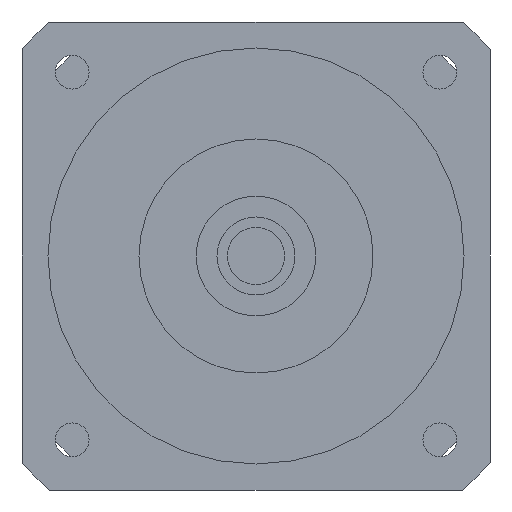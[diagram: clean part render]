
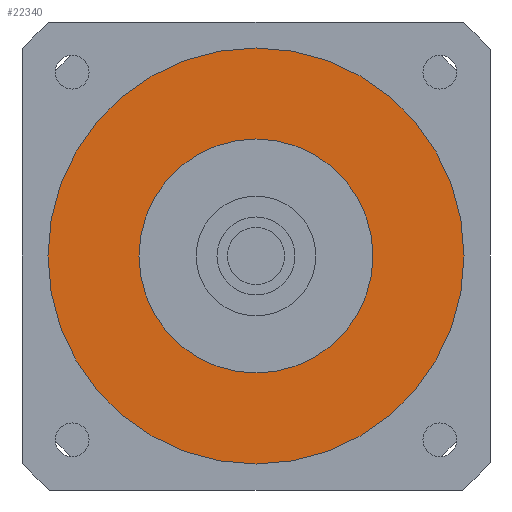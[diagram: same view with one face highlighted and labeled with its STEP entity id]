
A CAD part, left-side view. The second image highlights one B-rep face of the part: STEP entity #22340.
In plain terms, the highlighted planar face has unit normal (-1, 0, 0) as drawn and (0, 0, -1) by its records, which use the part's own axes.
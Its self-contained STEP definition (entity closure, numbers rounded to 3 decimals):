
#13830=CARTESIAN_POINT('',(0.,22.5,-54.));
#13840=VERTEX_POINT('',#13830);
#13890=CARTESIAN_POINT('',(0.,0.,-54.));
#13900=DIRECTION('',(0.,0.,1.));
#13910=DIRECTION('',(0.,1.,0.));
#13920=AXIS2_PLACEMENT_3D('',#13890,#13900,#13910);
#13930=CIRCLE('',#13920,22.5);
#13940=CARTESIAN_POINT('',(0.,-22.5,-54.));
#13950=VERTEX_POINT('',#13940);
#13960=EDGE_CURVE('',#13840,#13950,#13930,.T.);
#21900=CARTESIAN_POINT('',(0.,-40.,-54.));
#21910=VERTEX_POINT('',#21900);
#22000=CARTESIAN_POINT('',(0.,40.,-54.));
#22010=VERTEX_POINT('',#22000);
#22040=CARTESIAN_POINT('',(0.,0.,
-54.));
#22050=DIRECTION('',(0.,0.,1.));
#22060=DIRECTION('',(1.,0.,0.));
#22070=AXIS2_PLACEMENT_3D('',#22040,#22050,#22060);
#22080=CIRCLE('',#22070,40.);
#22090=CARTESIAN_POINT('',(40.,0.,-54.));
#22100=VERTEX_POINT('',#22090);
#22110=EDGE_CURVE('',#22100,#22010,#22080,.T.);
#22130=EDGE_CURVE('',#21910,#22100,#22080,.T.);
#22180=CARTESIAN_POINT('',(0.,0.,
-54.));
#22190=DIRECTION('',(0.,0.,1.));
#22200=DIRECTION('',(0.,1.,0.));
#22210=AXIS2_PLACEMENT_3D('',#22180,#22190,#22200);
#22220=PLANE('',#22210);
#22230=ORIENTED_EDGE('',*,*,#13960,.T.);
#22240=EDGE_CURVE('',#13950,#13840,#13930,.T.);
#22250=ORIENTED_EDGE('',*,*,#22240,.T.);
#22260=EDGE_LOOP('',(#22250,#22230));
#22270=FACE_BOUND('',#22260,.T.);
#22280=ORIENTED_EDGE('',*,*,#22110,.F.);
#22290=EDGE_CURVE('',#22010,#21910,#22080,.T.);
#22300=ORIENTED_EDGE('',*,*,#22290,.F.);
#22310=ORIENTED_EDGE('',*,*,#22130,.F.);
#22320=EDGE_LOOP('',(#22310,#22300,#22280));
#22330=FACE_OUTER_BOUND('',#22320,.T.);
#22340=ADVANCED_FACE('',(#22270,#22330),#22220,.F.);
